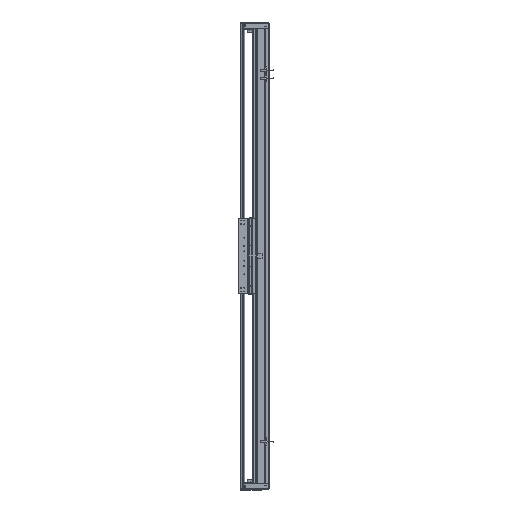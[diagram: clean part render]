
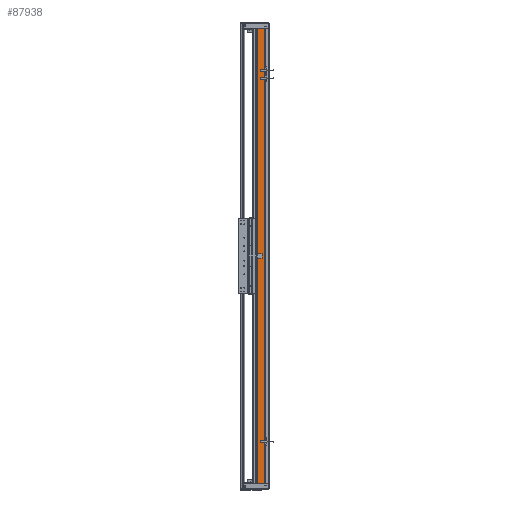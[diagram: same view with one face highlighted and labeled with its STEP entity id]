
A CAD part, left-side view. The second image highlights one B-rep face of the part: STEP entity #87938.
In plain terms, the highlighted planar face has unit normal (-1, 0, 0).
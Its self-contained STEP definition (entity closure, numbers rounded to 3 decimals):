
#924 = VERTEX_POINT ( 'NONE', #150100 ) ;
#1121 = EDGE_CURVE ( 'NONE', #90536, #924, #3342, .T. ) ;
#3342 = LINE ( 'NONE', #135298, #11778 ) ;
#5614 = DIRECTION ( 'NONE',  ( 0., -1., 0. ) ) ;
#11778 = VECTOR ( 'NONE', #5614, 1000. ) ;
#16261 = ORIENTED_EDGE ( 'NONE', *, *, #20393, .F. ) ;
#20393 = EDGE_CURVE ( 'NONE', #137171, #924, #131630, .T. ) ;
#21653 = VECTOR ( 'NONE', #120030, 1000. ) ;
#28956 = DIRECTION ( 'NONE',  ( 0., -1., 0. ) ) ;
#34016 = ORIENTED_EDGE ( 'NONE', *, *, #113001, .F. ) ;
#34964 = CARTESIAN_POINT ( 'NONE',  ( -97.5, 36.95, -750. ) ) ;
#40220 = EDGE_CURVE ( 'NONE', #44244, #90536, #112213, .T. ) ;
#43542 = CARTESIAN_POINT ( 'NONE',  ( -97.5, 36.95, 750. ) ) ;
#44244 = VERTEX_POINT ( 'NONE', #43542 ) ;
#52838 = CARTESIAN_POINT ( 'NONE',  ( -97.5, 14.45, 750. ) ) ;
#55010 = VECTOR ( 'NONE', #126109, 1000. ) ;
#63117 = ORIENTED_EDGE ( 'NONE', *, *, #40220, .T. ) ;
#64169 = ORIENTED_EDGE ( 'NONE', *, *, #1121, .T. ) ;
#81991 = EDGE_LOOP ( 'NONE', ( #64169, #16261, #34016, #63117 ) ) ;
#85317 = VECTOR ( 'NONE', #28956, 1000. ) ;
#87938 = ADVANCED_FACE ( 'NONE', ( #87951 ), #101789, .F. ) ;
#87951 = FACE_OUTER_BOUND ( 'NONE', #81991, .T. ) ;
#89465 = DIRECTION ( 'NONE',  ( 0., 1., 0. ) ) ;
#90536 = VERTEX_POINT ( 'NONE', #34964 ) ;
#101789 = PLANE ( 'NONE',  #128630 ) ;
#110732 = LINE ( 'NONE', #134698, #85317 ) ;
#111105 = DIRECTION ( 'NONE',  ( 1., 0., 0. ) ) ;
#112213 = LINE ( 'NONE', #124591, #55010 ) ;
#113001 = EDGE_CURVE ( 'NONE', #44244, #137171, #110732, .T. ) ;
#120030 = DIRECTION ( 'NONE',  ( 0., 0., -1. ) ) ;
#124230 = CARTESIAN_POINT ( 'NONE',  ( -97.5, 36.95, 750. ) ) ;
#124591 = CARTESIAN_POINT ( 'NONE',  ( -97.5, 36.95, 750. ) ) ;
#126109 = DIRECTION ( 'NONE',  ( 0., 0., -1. ) ) ;
#128630 = AXIS2_PLACEMENT_3D ( 'NONE', #124230, #111105, #89465 ) ;
#131630 = LINE ( 'NONE', #52838, #21653 ) ;
#134698 = CARTESIAN_POINT ( 'NONE',  ( -97.5, 36.95, 750. ) ) ;
#135298 = CARTESIAN_POINT ( 'NONE',  ( -97.5, 36.95, -750. ) ) ;
#137171 = VERTEX_POINT ( 'NONE', #148465 ) ;
#148465 = CARTESIAN_POINT ( 'NONE',  ( -97.5, 14.45, 750. ) ) ;
#150100 = CARTESIAN_POINT ( 'NONE',  ( -97.5, 14.45, -750. ) ) ;
